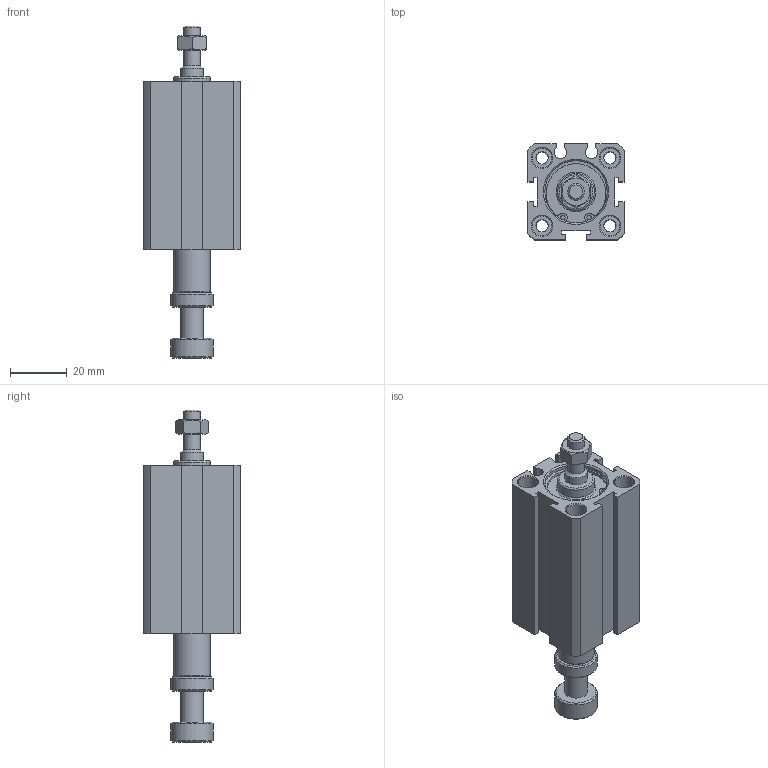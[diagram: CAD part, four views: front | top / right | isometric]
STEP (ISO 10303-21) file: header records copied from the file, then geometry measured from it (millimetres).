
FILE_DESCRIPTION((''),'2;1');
FILE_NAME('I:\3D電子目錄\氣缸\JDAR\JDAR-BS\JDAR20-BS\JDAR20x30-BS.stp','2007-05-05T10:44:53',('662F206'),(''),'Autodesk Inventor 11','Autodesk Inventor 11','');
FILE_SCHEMA(('AUTOMOTIVE_DESIGN { 1 0 10303 214 1 1 1 1 }'));
Length unit declared in the file: millimetre
Products named in the file (3): JDAR20-BS; R 形環 23
Assembly tree (3 placements, depth 2):
  JDAR20-BS
    JDAR20-BS
    R 形環 23  x2
Bounding box: 34 x 34 x 117.3 mm (x, y, z)
Volume: 60958.5 mm3; surface area: 20831.8 mm2
Topology: 3 solids, 3 shells, 152 faces, 341 edges, 221 vertices
Faces by surface type: plane 74, cylinder 50, cone 20, bspline 6, torus 2
Full cylindrical faces by diameter (mm): 1.5 x6, 4.3 x4, 6 x2, 7 x8, 8 x2, 13 x2, 15 x2, 22 x4, 23.2 x2
Entity records: 3749 total; most frequent: CARTESIAN_POINT 742, DIRECTION 628, ORIENTED_EDGE 498, AXIS2_PLACEMENT_3D 251, EDGE_CURVE 249, EDGE_LOOP 234, VERTEX_POINT 195, FACE_OUTER_BOUND 140
